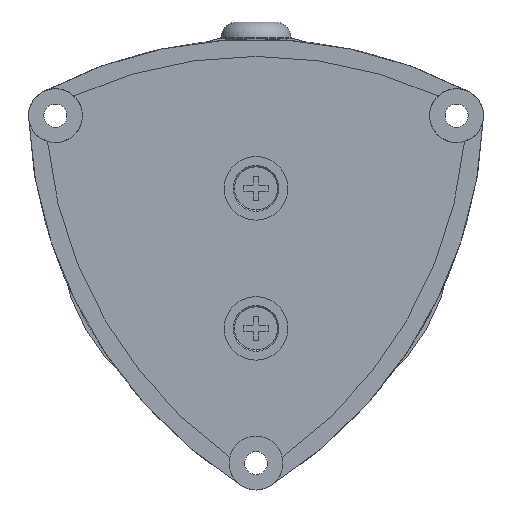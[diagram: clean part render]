
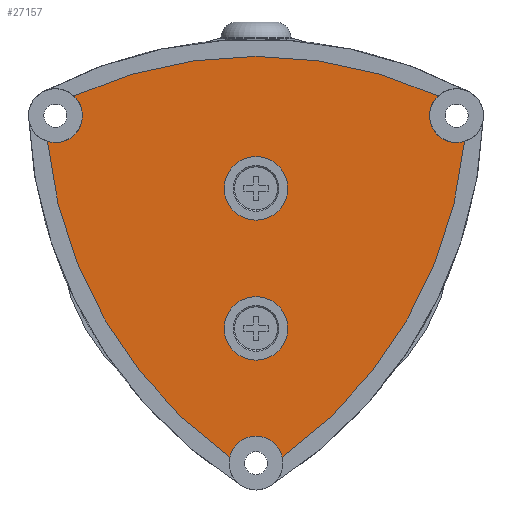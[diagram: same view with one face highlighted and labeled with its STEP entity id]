
A CAD part, front view. The second image highlights one B-rep face of the part: STEP entity #27157.
In plain terms, the highlighted planar face has unit normal (0, -1, 0).
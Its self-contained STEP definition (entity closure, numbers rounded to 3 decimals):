
#9608=CARTESIAN_POINT('',(42.666,-3.5,24.633));
#9609=DIRECTION('',(0.,1.,0.));
#9610=DIRECTION('',(-0.581,0.,-0.814));
#9611=AXIS2_PLACEMENT_3D('',#9608,#9609,#9610);
#9613=CARTESIAN_POINT('',(-37.239,-3.5,21.5));
#9614=DIRECTION('',(0.,-1.,0.));
#9615=DIRECTION('',(-0.296,0.,-0.955));
#9616=AXIS2_PLACEMENT_3D('',#9613,#9614,#9615);
#9618=CARTESIAN_POINT('',(-37.239,-3.5,21.5));
#9619=DIRECTION('',(0.,-1.,0.));
#9620=DIRECTION('',(1.,0.,0.));
#9621=AXIS2_PLACEMENT_3D('',#9618,#9619,#9620);
#9623=CARTESIAN_POINT('',(0.,-3.5,-49.267));
#9624=DIRECTION('',(0.,1.,0.));
#9625=DIRECTION('',(-0.414,0.,0.91));
#9626=AXIS2_PLACEMENT_3D('',#9623,#9624,#9625);
#9628=CARTESIAN_POINT('',(37.239,-3.5,21.5));
#9629=DIRECTION('',(0.,-1.,0.));
#9630=DIRECTION('',(-0.68,0.,0.734));
#9631=AXIS2_PLACEMENT_3D('',#9628,#9629,#9630);
#9633=CARTESIAN_POINT('',(-42.666,-3.5,24.633));
#9634=DIRECTION('',(0.,1.,0.));
#9635=DIRECTION('',(0.995,0.,-0.097));
#9636=AXIS2_PLACEMENT_3D('',#9633,#9634,#9635);
#9638=CARTESIAN_POINT('',(0.,-3.5,-43.));
#9639=DIRECTION('',(0.,-1.,0.));
#9640=DIRECTION('',(0.975,0.,0.222));
#9641=AXIS2_PLACEMENT_3D('',#9638,#9639,#9640);
#9643=CARTESIAN_POINT('',(0.,-3.5,-18.));
#9644=DIRECTION('',(0.,-1.,0.));
#9645=DIRECTION('',(-1.,0.,0.));
#9646=AXIS2_PLACEMENT_3D('',#9643,#9644,#9645);
#9648=CARTESIAN_POINT('',(0.,-3.5,-18.));
#9649=DIRECTION('',(0.,-1.,0.));
#9650=DIRECTION('',(1.,0.,0.));
#9651=AXIS2_PLACEMENT_3D('',#9648,#9649,#9650);
#9653=CARTESIAN_POINT('',(0.,-3.5,8.));
#9654=DIRECTION('',(0.,-1.,0.));
#9655=DIRECTION('',(-1.,0.,0.));
#9656=AXIS2_PLACEMENT_3D('',#9653,#9654,#9655);
#9658=CARTESIAN_POINT('',(0.,-3.5,8.));
#9659=DIRECTION('',(0.,-1.,0.));
#9660=DIRECTION('',(1.,0.,0.));
#9661=AXIS2_PLACEMENT_3D('',#9658,#9659,#9660);
#10993=CARTESIAN_POINT('',(33.841,-3.5,25.168));
#10994=CARTESIAN_POINT('',(38.717,-3.5,16.723));
#10995=VERTEX_POINT('',#10993);
#10996=VERTEX_POINT('',#10994);
#11005=CARTESIAN_POINT('',(-4.876,-3.5,-41.892));
#11006=CARTESIAN_POINT('',(-38.717,-3.5,16.723));
#11007=VERTEX_POINT('',#11005);
#11008=VERTEX_POINT('',#11006);
#11009=CARTESIAN_POINT('',(-33.841,-3.5,25.168));
#11010=VERTEX_POINT('',#11009);
#11011=CARTESIAN_POINT('',(4.876,-3.5,-41.892));
#11012=VERTEX_POINT('',#11011);
#11013=CARTESIAN_POINT('',(-5.9,-3.5,-18.));
#11014=CARTESIAN_POINT('',(5.9,-3.5,-18.));
#11015=VERTEX_POINT('',#11013);
#11016=VERTEX_POINT('',#11014);
#11017=CARTESIAN_POINT('',(-5.9,-3.5,8.));
#11018=CARTESIAN_POINT('',(5.9,-3.5,8.));
#11019=VERTEX_POINT('',#11017);
#11020=VERTEX_POINT('',#11018);
#11466=CARTESIAN_POINT('',(-32.239,-3.5,21.5));
#11467=VERTEX_POINT('',#11466);
#27125=CARTESIAN_POINT('',(0.,-3.5,-4.696));
#27126=DIRECTION('',(0.,1.,0.));
#27127=DIRECTION('',(-1.,0.,0.));
#27128=AXIS2_PLACEMENT_3D('',#27125,#27126,#27127);
#27129=PLANE('',#27128);
#27131=ORIENTED_EDGE('',*,*,#27130,.T.);
#27133=ORIENTED_EDGE('',*,*,#27132,.T.);
#27135=ORIENTED_EDGE('',*,*,#27134,.T.);
#27137=ORIENTED_EDGE('',*,*,#27136,.T.);
#27139=ORIENTED_EDGE('',*,*,#27138,.T.);
#27141=ORIENTED_EDGE('',*,*,#27140,.T.);
#27143=ORIENTED_EDGE('',*,*,#27142,.T.);
#27144=EDGE_LOOP('',(#27131,#27133,#27135,#27137,#27139,#27141,#27143));
#27145=FACE_OUTER_BOUND('',#27144,.F.);
#27147=ORIENTED_EDGE('',*,*,#27146,.T.);
#27149=ORIENTED_EDGE('',*,*,#27148,.T.);
#27150=EDGE_LOOP('',(#27147,#27149));
#27151=FACE_BOUND('',#27150,.F.);
#27152=ORIENTED_EDGE('',*,*,#27115,.T.);
#27154=ORIENTED_EDGE('',*,*,#27153,.T.);
#27155=EDGE_LOOP('',(#27152,#27154));
#27156=FACE_BOUND('',#27155,.F.);
#27157=ADVANCED_FACE('',(#27145,#27151,#27156),#27129,.F.);
#9612=CIRCLE('',#9611,81.767);
#9617=CIRCLE('',#9616,5.);
#9622=CIRCLE('',#9621,5.);
#9627=CIRCLE('',#9626,81.767);
#9632=CIRCLE('',#9631,5.);
#9637=CIRCLE('',#9636,81.767);
#9642=CIRCLE('',#9641,5.);
#9647=CIRCLE('',#9646,5.9);
#9652=CIRCLE('',#9651,5.9);
#9657=CIRCLE('',#9656,5.9);
#9662=CIRCLE('',#9661,5.9);
#27115=EDGE_CURVE('',#11019,#11020,#9657,.T.);
#27130=EDGE_CURVE('',#11007,#11008,#9612,.T.);
#27132=EDGE_CURVE('',#11008,#11467,#9617,.T.);
#27134=EDGE_CURVE('',#11467,#11010,#9622,.T.);
#27136=EDGE_CURVE('',#11010,#10995,#9627,.T.);
#27138=EDGE_CURVE('',#10995,#10996,#9632,.T.);
#27140=EDGE_CURVE('',#10996,#11012,#9637,.T.);
#27142=EDGE_CURVE('',#11012,#11007,#9642,.T.);
#27146=EDGE_CURVE('',#11015,#11016,#9647,.T.);
#27148=EDGE_CURVE('',#11016,#11015,#9652,.T.);
#27153=EDGE_CURVE('',#11020,#11019,#9662,.T.);
